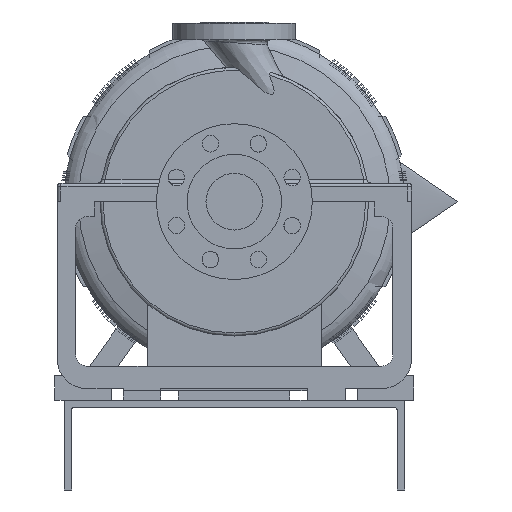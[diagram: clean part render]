
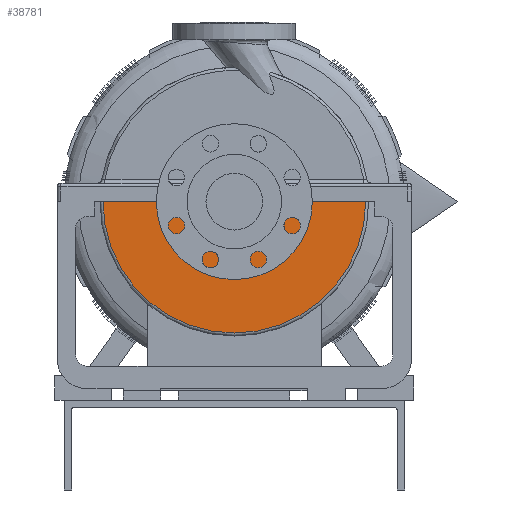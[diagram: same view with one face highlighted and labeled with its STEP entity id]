
A CAD part, front view. The second image highlights one B-rep face of the part: STEP entity #38781.
In plain terms, the highlighted planar face has unit normal (0, -1, 0).
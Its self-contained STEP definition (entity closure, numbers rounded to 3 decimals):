
#867=LINE('',#51411,#3536);
#873=LINE('',#51432,#3542);
#3536=VECTOR('',#43225,1000.);
#3542=VECTOR('',#43241,1000.);
#6266=ORIENTED_EDGE('',*,*,#14568,.T.);
#6267=ORIENTED_EDGE('',*,*,#14512,.F.);
#6268=ORIENTED_EDGE('',*,*,#14569,.T.);
#6269=ORIENTED_EDGE('',*,*,#14522,.F.);
#14512=EDGE_CURVE('',#18664,#18665,#867,.T.);
#14522=EDGE_CURVE('',#18674,#18675,#873,.T.);
#14568=EDGE_CURVE('',#18674,#18665,#21246,.T.);
#14569=EDGE_CURVE('',#18664,#18675,#21247,.F.);
#18664=VERTEX_POINT('',#51410);
#18665=VERTEX_POINT('',#51412);
#18674=VERTEX_POINT('',#51431);
#18675=VERTEX_POINT('',#51433);
#21246=CIRCLE('',#40510,176.5);
#21247=CIRCLE('',#40511,67.071);
#22383=EDGE_LOOP('',(#6266,#6267,#6268,#6269));
#24175=FACE_BOUND('',#22383,.T.);
#25930=PLANE('',#40509);
#38781=ADVANCED_FACE('',(#24175),#25930,.T.);
#40509=AXIS2_PLACEMENT_3D('',#51581,#43338,#43339);
#40510=AXIS2_PLACEMENT_3D('',#51582,#43340,#43341);
#40511=AXIS2_PLACEMENT_3D('',#51583,#43342,#43343);
#43225=DIRECTION('',(1.,0.,0.));
#43241=DIRECTION('',(1.,0.,0.));
#43338=DIRECTION('',(0.,-1.,0.));
#43339=DIRECTION('',(1.,0.,0.));
#43340=DIRECTION('',(0.,-1.,0.));
#43341=DIRECTION('',(1.,0.,0.));
#43342=DIRECTION('',(0.,-1.,0.));
#43343=DIRECTION('',(1.,0.,0.));
#51410=CARTESIAN_POINT('',(67.071,-28.,0.));
#51411=CARTESIAN_POINT('',(0.,-28.,0.));
#51412=CARTESIAN_POINT('',(176.5,-28.,0.));
#51431=CARTESIAN_POINT('',(-176.5,-28.,0.));
#51432=CARTESIAN_POINT('',(0.,-28.,0.));
#51433=CARTESIAN_POINT('',(-67.071,-28.,0.));
#51581=CARTESIAN_POINT('',(0.,-28.,65.));
#51582=CARTESIAN_POINT('',(0.,-28.,0.));
#51583=CARTESIAN_POINT('',(0.,-28.,0.));
